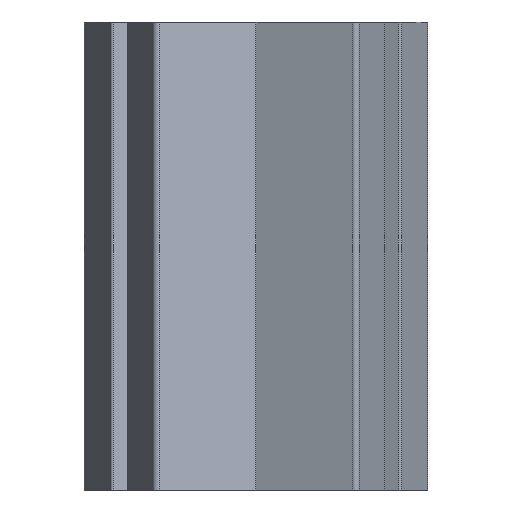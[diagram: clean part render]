
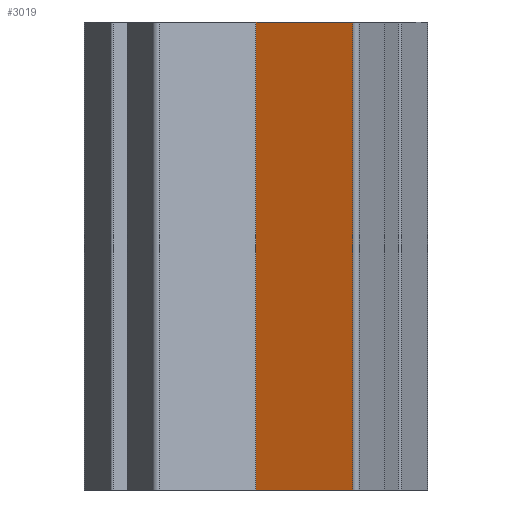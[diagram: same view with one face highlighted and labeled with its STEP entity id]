
A CAD part, front view. The second image highlights one B-rep face of the part: STEP entity #3019.
In plain terms, the highlighted planar face has unit normal (-0.383, -0.924, 0).
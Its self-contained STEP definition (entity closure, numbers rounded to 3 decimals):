
#29 = EDGE_CURVE ( 'NONE', #2634, #1588, #2018, .T. ) ;
#87 = DIRECTION ( 'NONE',  ( 0.924, -0.383, 0. ) ) ;
#96 = CARTESIAN_POINT ( 'NONE',  ( 0., -18.342, -100. ) ) ;
#136 = LINE ( 'NONE', #2113, #1081 ) ;
#187 = EDGE_CURVE ( 'NONE', #518, #1588, #136, .T. ) ;
#244 = CARTESIAN_POINT ( 'NONE',  ( 20.724, -26.927, -100. ) ) ;
#322 = DIRECTION ( 'NONE',  ( -0.383, -0.924, 0. ) ) ;
#363 = VECTOR ( 'NONE', #3080, 1000. ) ;
#451 = VECTOR ( 'NONE', #1090, 1000. ) ;
#518 = VERTEX_POINT ( 'NONE', #1273 ) ;
#576 = LINE ( 'NONE', #96, #451 ) ;
#637 = EDGE_CURVE ( 'NONE', #2485, #518, #2549, .T. ) ;
#659 = EDGE_CURVE ( 'NONE', #2485, #2634, #576, .T. ) ;
#735 = CARTESIAN_POINT ( 'NONE',  ( 0., -18.342, -100. ) ) ;
#860 = FACE_OUTER_BOUND ( 'NONE', #1243, .T. ) ;
#1081 = VECTOR ( 'NONE', #87, 1000. ) ;
#1090 = DIRECTION ( 'NONE',  ( 0.924, -0.383, 0. ) ) ;
#1226 = VECTOR ( 'NONE', #2227, 1000. ) ;
#1243 = EDGE_LOOP ( 'NONE', ( #2063, #2924, #2900, #1447 ) ) ;
#1273 = CARTESIAN_POINT ( 'NONE',  ( 0., -18.342, 0. ) ) ;
#1302 = DIRECTION ( 'NONE',  ( 0.924, -0.383, 0. ) ) ;
#1418 = AXIS2_PLACEMENT_3D ( 'NONE', #2547, #322, #1302 ) ;
#1447 = ORIENTED_EDGE ( 'NONE', *, *, #29, .T. ) ;
#1588 = VERTEX_POINT ( 'NONE', #2874 ) ;
#1870 = CARTESIAN_POINT ( 'NONE',  ( 0., -18.342, -100. ) ) ;
#2018 = LINE ( 'NONE', #244, #1226 ) ;
#2063 = ORIENTED_EDGE ( 'NONE', *, *, #187, .F. ) ;
#2113 = CARTESIAN_POINT ( 'NONE',  ( 0., -18.342, 0. ) ) ;
#2227 = DIRECTION ( 'NONE',  ( 0., 0., 1. ) ) ;
#2485 = VERTEX_POINT ( 'NONE', #735 ) ;
#2547 = CARTESIAN_POINT ( 'NONE',  ( 0., -18.342, -100. ) ) ;
#2549 = LINE ( 'NONE', #1870, #363 ) ;
#2566 = CARTESIAN_POINT ( 'NONE',  ( 20.724, -26.927, -100. ) ) ;
#2634 = VERTEX_POINT ( 'NONE', #2566 ) ;
#2797 = PLANE ( 'NONE',  #1418 ) ;
#2874 = CARTESIAN_POINT ( 'NONE',  ( 20.724, -26.927, 0. ) ) ;
#2900 = ORIENTED_EDGE ( 'NONE', *, *, #659, .T. ) ;
#2924 = ORIENTED_EDGE ( 'NONE', *, *, #637, .F. ) ;
#3019 = ADVANCED_FACE ( 'NONE', ( #860 ), #2797, .T. ) ;
#3080 = DIRECTION ( 'NONE',  ( 0., 0., 1. ) ) ;
